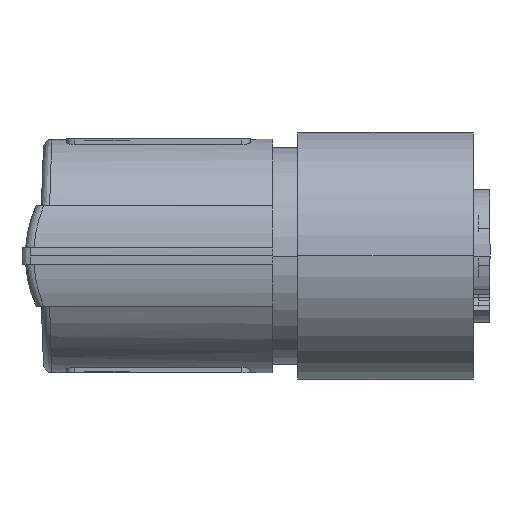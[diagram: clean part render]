
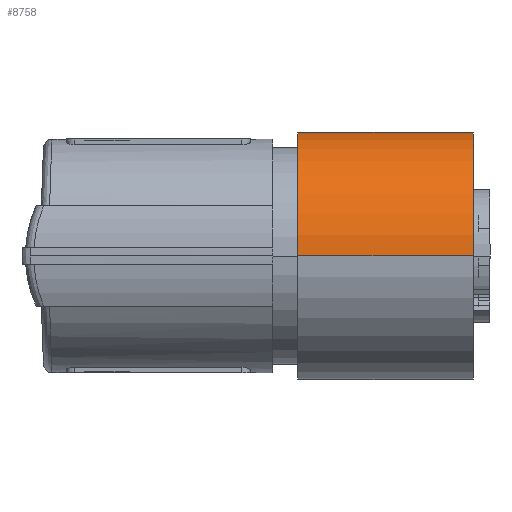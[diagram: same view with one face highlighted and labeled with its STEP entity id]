
A CAD part, left-side view. The second image highlights one B-rep face of the part: STEP entity #8758.
In plain terms, the highlighted cylindrical face has radius 7.4 mm (diameter 14.8 mm), a partial arc.
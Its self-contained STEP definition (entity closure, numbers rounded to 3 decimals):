
#240 = VECTOR ( 'NONE', #5806, 1000. ) ;
#751 = VECTOR ( 'NONE', #1195, 1000. ) ;
#1024 = CARTESIAN_POINT ( 'NONE',  ( 15.54, 10., 31.751 ) ) ;
#1142 = ORIENTED_EDGE ( 'NONE', *, *, #1467, .F. ) ;
#1195 = DIRECTION ( 'NONE',  ( 0., -1., 0. ) ) ;
#1222 = CARTESIAN_POINT ( 'NONE',  ( 22.94, -0.5, 31.751 ) ) ;
#1263 = VERTEX_POINT ( 'NONE', #7735 ) ;
#1464 = CYLINDRICAL_SURFACE ( 'NONE', #5578, 7.4 ) ;
#1467 = EDGE_CURVE ( 'NONE', #6580, #3871, #3606, .T. ) ;
#1809 = CARTESIAN_POINT ( 'NONE',  ( 22.94, 5., 31.751 ) ) ;
#2518 = DIRECTION ( 'NONE',  ( 0., 1., 0. ) ) ;
#2528 = LINE ( 'NONE', #1809, #240 ) ;
#2735 = CARTESIAN_POINT ( 'NONE',  ( 15.54, 5., 31.751 ) ) ;
#2858 = CARTESIAN_POINT ( 'NONE',  ( 8.14, 10., 31.751 ) ) ;
#3409 = DIRECTION ( 'NONE',  ( 0., -1., 0. ) ) ;
#3606 = CIRCLE ( 'NONE', #7691, 7.4 ) ;
#3871 = VERTEX_POINT ( 'NONE', #7927 ) ;
#3966 = DIRECTION ( 'NONE',  ( 0., 1., 0. ) ) ;
#4152 = FACE_OUTER_BOUND ( 'NONE', #5211, .T. ) ;
#5211 = EDGE_LOOP ( 'NONE', ( #1142, #6094, #7955, #5804 ) ) ;
#5578 = AXIS2_PLACEMENT_3D ( 'NONE', #2735, #3409, #7655 ) ;
#5804 = ORIENTED_EDGE ( 'NONE', *, *, #8098, .F. ) ;
#5806 = DIRECTION ( 'NONE',  ( 0., -1., 0. ) ) ;
#5950 = CARTESIAN_POINT ( 'NONE',  ( 15.54, -0.5, 31.751 ) ) ;
#5981 = DIRECTION ( 'NONE',  ( 1., 0., 0. ) ) ;
#6094 = ORIENTED_EDGE ( 'NONE', *, *, #7018, .T. ) ;
#6580 = VERTEX_POINT ( 'NONE', #2858 ) ;
#7018 = EDGE_CURVE ( 'NONE', #6580, #1263, #8116, .T. ) ;
#7158 = AXIS2_PLACEMENT_3D ( 'NONE', #5950, #3966, #8017 ) ;
#7421 = CARTESIAN_POINT ( 'NONE',  ( 8.14, 5., 31.751 ) ) ;
#7655 = DIRECTION ( 'NONE',  ( 1., 0., 0. ) ) ;
#7691 = AXIS2_PLACEMENT_3D ( 'NONE', #1024, #2518, #5981 ) ;
#7735 = CARTESIAN_POINT ( 'NONE',  ( 8.14, -0.5, 31.751 ) ) ;
#7904 = CIRCLE ( 'NONE', #7158, 7.4 ) ;
#7927 = CARTESIAN_POINT ( 'NONE',  ( 22.94, 10., 31.751 ) ) ;
#7955 = ORIENTED_EDGE ( 'NONE', *, *, #8593, .T. ) ;
#8017 = DIRECTION ( 'NONE',  ( 1., 0., 0. ) ) ;
#8098 = EDGE_CURVE ( 'NONE', #3871, #8348, #2528, .T. ) ;
#8116 = LINE ( 'NONE', #7421, #751 ) ;
#8348 = VERTEX_POINT ( 'NONE', #1222 ) ;
#8593 = EDGE_CURVE ( 'NONE', #1263, #8348, #7904, .T. ) ;
#8758 = ADVANCED_FACE ( 'NONE', ( #4152 ), #1464, .T. ) ;
